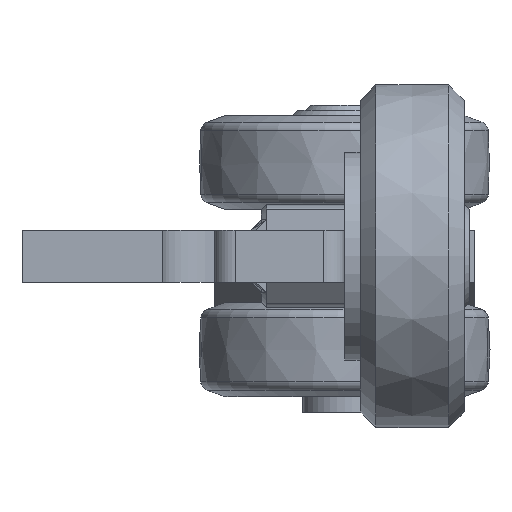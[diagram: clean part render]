
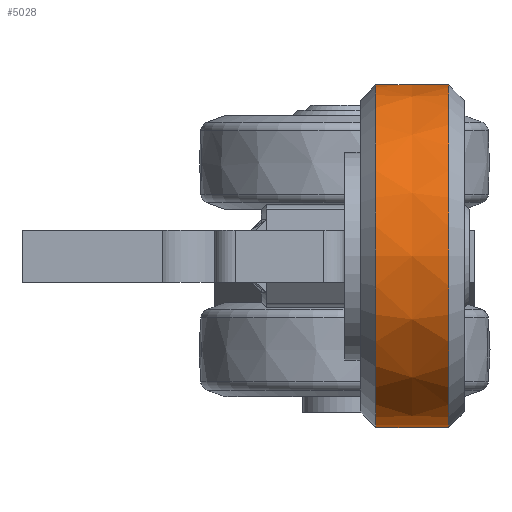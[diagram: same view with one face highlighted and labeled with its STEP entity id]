
A CAD part, left-side view. The second image highlights one B-rep face of the part: STEP entity #5028.
In plain terms, the highlighted free-form (B-spline) face has degree [2, 2] with [3, 9] control points.
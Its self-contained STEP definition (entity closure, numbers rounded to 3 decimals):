
#146=(
BOUNDED_SURFACE()
B_SPLINE_SURFACE(2,2,((#8693,#8694,#8695,#8696,#8697,#8698,#8699,#8700,
#8701),(#8702,#8703,#8704,#8705,#8706,#8707,#8708,#8709,#8710),(#8711,#8712,
#8713,#8714,#8715,#8716,#8717,#8718,#8719)),.UNSPECIFIED.,.F.,.T.,.F.)
B_SPLINE_SURFACE_WITH_KNOTS((3,3),(3,2,2,2,3),(-0.018,0.018),
(-3.142,-1.571,0.,1.571,3.142),
 .UNSPECIFIED.)
GEOMETRIC_REPRESENTATION_ITEM()
RATIONAL_B_SPLINE_SURFACE(((1.,0.707,1.,0.707,1.,
0.707,1.,0.707,1.),(1.,0.707,
1.,0.707,1.,0.707,
1.,0.707,1.),(1.,0.707,
1.,0.707,1.,0.707,1.,0.707,1.)))
REPRESENTATION_ITEM('')
SURFACE()
);
#178=(
BOUNDED_CURVE()
B_SPLINE_CURVE(2,(#8724,#8725,#8726),.UNSPECIFIED.,.F.,.F.)
B_SPLINE_CURVE_WITH_KNOTS((3,3),(-0.018,0.018),
 .UNSPECIFIED.)
CURVE()
GEOMETRIC_REPRESENTATION_ITEM()
RATIONAL_B_SPLINE_CURVE((1.,1.,1.))
REPRESENTATION_ITEM('')
);
#1516=FACE_OUTER_BOUND('',#1854,.T.);
#1854=EDGE_LOOP('',(#4205,#4206,#4207,#4208,#4209,#4210));
#2160=CIRCLE('',#5441,16.47);
#2161=CIRCLE('',#5442,16.47);
#2162=CIRCLE('',#5443,16.47);
#2163=CIRCLE('',#5444,16.47);
#2529=VERTEX_POINT('',#8689);
#2530=VERTEX_POINT('',#8690);
#2531=VERTEX_POINT('',#8720);
#2532=VERTEX_POINT('',#8721);
#3133=EDGE_CURVE('',#2529,#2530,#2160,.T.);
#3134=EDGE_CURVE('',#2530,#2529,#2161,.T.);
#3135=EDGE_CURVE('',#2531,#2532,#2162,.T.);
#3136=EDGE_CURVE('',#2532,#2531,#2163,.T.);
#3137=EDGE_CURVE('',#2532,#2530,#178,.T.);
#4205=ORIENTED_EDGE('',*,*,#3135,.F.);
#4206=ORIENTED_EDGE('',*,*,#3136,.F.);
#4207=ORIENTED_EDGE('',*,*,#3137,.T.);
#4208=ORIENTED_EDGE('',*,*,#3134,.T.);
#4209=ORIENTED_EDGE('',*,*,#3133,.T.);
#4210=ORIENTED_EDGE('',*,*,#3137,.F.);
#5028=ADVANCED_FACE('',(#1516),#146,.F.);
#5441=AXIS2_PLACEMENT_3D('',#8691,#6471,#6472);
#5442=AXIS2_PLACEMENT_3D('',#8692,#6473,#6474);
#5443=AXIS2_PLACEMENT_3D('',#8722,#6475,#6476);
#5444=AXIS2_PLACEMENT_3D('',#8723,#6477,#6478);
#6471=DIRECTION('center_axis',(0.,1.,0.));
#6472=DIRECTION('ref_axis',(-1.,0.,0.));
#6473=DIRECTION('center_axis',(0.,1.,0.));
#6474=DIRECTION('ref_axis',(-1.,0.,0.));
#6475=DIRECTION('center_axis',(0.,1.,0.));
#6476=DIRECTION('ref_axis',(-1.,0.,0.));
#6477=DIRECTION('center_axis',(0.,1.,0.));
#6478=DIRECTION('ref_axis',(-1.,0.,0.));
#8689=CARTESIAN_POINT('',(-16.47,-7.,0.));
#8690=CARTESIAN_POINT('',(0.,-7.,-16.47));
#8691=CARTESIAN_POINT('Origin',(0.,-7.,0.));
#8692=CARTESIAN_POINT('Origin',(0.,-7.,0.));
#8693=CARTESIAN_POINT('Ctrl Pts',(0.,-7.,-16.47));
#8694=CARTESIAN_POINT('Ctrl Pts',(-16.47,-7.,-16.47));
#8695=CARTESIAN_POINT('Ctrl Pts',(-16.47,-7.,0.));
#8696=CARTESIAN_POINT('Ctrl Pts',(-16.47,-7.,16.47));
#8697=CARTESIAN_POINT('Ctrl Pts',(0.,-7.,16.47));
#8698=CARTESIAN_POINT('Ctrl Pts',(16.47,-7.,16.47));
#8699=CARTESIAN_POINT('Ctrl Pts',(16.47,-7.,0.));
#8700=CARTESIAN_POINT('Ctrl Pts',(16.47,-7.,-16.47));
#8701=CARTESIAN_POINT('Ctrl Pts',(0.,-7.,-16.47));
#8702=CARTESIAN_POINT('Ctrl Pts',(0.,-3.5,-16.531));
#8703=CARTESIAN_POINT('Ctrl Pts',(-16.531,-3.5,-16.531));
#8704=CARTESIAN_POINT('Ctrl Pts',(-16.531,-3.5,0.));
#8705=CARTESIAN_POINT('Ctrl Pts',(-16.531,-3.5,16.531));
#8706=CARTESIAN_POINT('Ctrl Pts',(0.,-3.5,16.531));
#8707=CARTESIAN_POINT('Ctrl Pts',(16.531,-3.5,16.531));
#8708=CARTESIAN_POINT('Ctrl Pts',(16.531,-3.5,0.));
#8709=CARTESIAN_POINT('Ctrl Pts',(16.531,-3.5,-16.531));
#8710=CARTESIAN_POINT('Ctrl Pts',(0.,-3.5,-16.531));
#8711=CARTESIAN_POINT('Ctrl Pts',(0.,0.,-16.47));
#8712=CARTESIAN_POINT('Ctrl Pts',(-16.47,0.,-16.47));
#8713=CARTESIAN_POINT('Ctrl Pts',(-16.47,0.,0.));
#8714=CARTESIAN_POINT('Ctrl Pts',(-16.47,0.,16.47));
#8715=CARTESIAN_POINT('Ctrl Pts',(0.,0.,16.47));
#8716=CARTESIAN_POINT('Ctrl Pts',(16.47,0.,16.47));
#8717=CARTESIAN_POINT('Ctrl Pts',(16.47,0.,0.));
#8718=CARTESIAN_POINT('Ctrl Pts',(16.47,0.,-16.47));
#8719=CARTESIAN_POINT('Ctrl Pts',(0.,0.,-16.47));
#8720=CARTESIAN_POINT('',(-16.47,0.,0.));
#8721=CARTESIAN_POINT('',(0.,0.,-16.47));
#8722=CARTESIAN_POINT('Origin',(0.,0.,0.));
#8723=CARTESIAN_POINT('Origin',(0.,0.,0.));
#8724=CARTESIAN_POINT('Ctrl Pts',(0.,0.,-16.47));
#8725=CARTESIAN_POINT('Ctrl Pts',(0.,-3.5,-16.531));
#8726=CARTESIAN_POINT('Ctrl Pts',(0.,-7.,-16.47));
